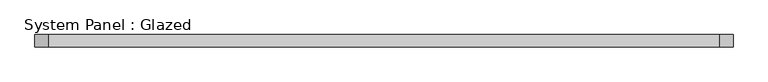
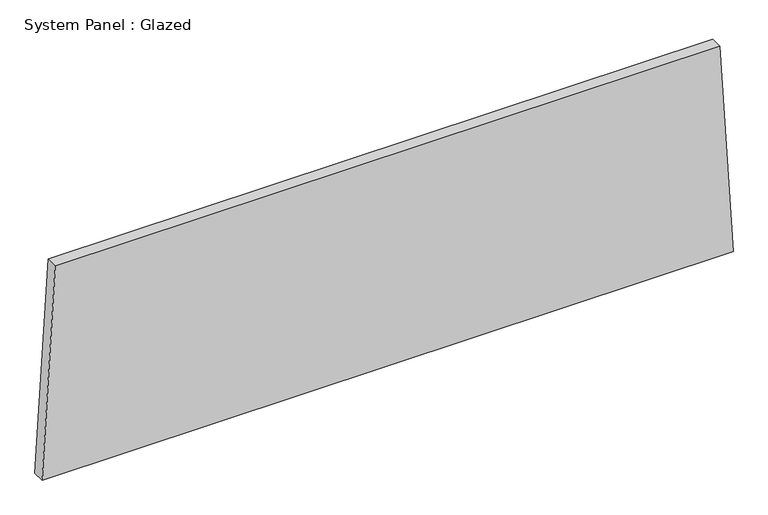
"""IFC4 building model written with IfcOpenShell, lengths in millimetres: plate geometry, System Panel : Glazed."""

import ifcopenshell
import ifcopenshell.guid

model = None  # the IFC model being written
_history = None  # IfcOwnerHistory: only IFC2X3 demands one
_inside = {}  # id of a spatial element -> (the spatial element, [elements in it])
_under = {}  # id of a project, library or spatial element -> (it, [spatial elements below it])
_declared = {}  # id of a project -> (the project, [libraries it declares])
_typed = {}  # id of a type object -> (the type object, [elements of that type])
_made_of = {}  # id of a material, layer set ... -> (it, [elements and type objects made of it])


def new_model(schema):
    """Start an empty IFC model of exactly this schema.

    Asked for "IFC4X3", IfcOpenShell would pick the latest addendum, in which some entities
    have other attributes; the version numbers below select the first issue.
    IFC2X3 requires an IfcOwnerHistory on every rooted entity: one is made here for all.
    """
    global model, _history
    if schema == "IFC4X3":
        model = ifcopenshell.file(schema_version=(4, 3, 0, 0))
    else:
        model = ifcopenshell.file(schema=schema)
    _inside.clear()
    _under.clear()
    _declared.clear()
    _typed.clear()
    _made_of.clear()
    _history = None
    if model.schema == "IFC2X3":
        org = make("IfcOrganization", Name="unknown")
        user = make(
            "IfcPersonAndOrganization",
            ThePerson=make("IfcPerson", FamilyName="unknown"),
            TheOrganization=org,
        )
        app = make(
            "IfcApplication",
            ApplicationDeveloper=org,
            Version="unknown",
            ApplicationFullName="unknown",
            ApplicationIdentifier="unknown",
        )
        _history = make(
            "IfcOwnerHistory",
            OwningUser=user,
            OwningApplication=app,
            ChangeAction="ADDED",
            CreationDate=0,
        )
    return model


def make(cls, **values):
    """One entity of the class cls with the attributes given. An attribute that is None is left unset."""
    return model.create_entity(
        cls, **{name: value for name, value in values.items() if value is not None}
    )


def rooted(cls, **values):
    """An entity with a GlobalId (a new one), such as an element, a storey or a relation."""
    return make(cls, GlobalId=ifcopenshell.guid.new(), OwnerHistory=_history, **values)


def si_unit(unit_type, name, prefix=None):
    """IfcSIUnit, for example si_unit("LENGTHUNIT", "METRE", prefix="MILLI")."""
    return make("IfcSIUnit", UnitType=unit_type, Prefix=prefix, Name=name)


def assignment(units):
    """IfcUnitAssignment: the units of a project."""
    return None if units is None else make("IfcUnitAssignment", Units=units)


def point(xyz):
    """IfcCartesianPoint."""
    return None if xyz is None else make("IfcCartesianPoint", Coordinates=xyz)


def direction(xyz):
    """IfcDirection."""
    return None if xyz is None else make("IfcDirection", DirectionRatios=xyz)


def frame(location, z_axis=None, x_axis=None):
    """IfcAxis2Placement3D, a coordinate frame: its origin and axes. An axis left out is left unset."""
    return make(
        "IfcAxis2Placement3D",
        Location=point(location),
        Axis=direction(z_axis),
        RefDirection=direction(x_axis),
    )


def origin():
    """The frame at (0, 0, 0) with its axes left unset."""
    return frame((0.0, 0.0, 0.0))


def place(relative_to, where):
    """IfcLocalPlacement: puts the frame where relative to a parent placement (None: the world)."""
    return make(
        "IfcLocalPlacement", PlacementRelTo=relative_to, RelativePlacement=where
    )


def context(
    kind, dimensions, precision=None, world=None, true_north=None, identifier=None
):
    """IfcGeometricRepresentationContext, for example the 3D "Model" context."""
    return make(
        "IfcGeometricRepresentationContext",
        ContextIdentifier=identifier,
        ContextType=kind,
        CoordinateSpaceDimension=dimensions,
        Precision=precision,
        WorldCoordinateSystem=world,
        TrueNorth=true_north,
    )


def project(units=None, contexts=None):
    """IfcProject with its units and contexts."""
    return rooted(
        "IfcProject",
        Name="project",
        RepresentationContexts=contexts,
        UnitsInContext=assignment(units),
    )


def spatial(cls, under=None, at=None, **own):
    """A site, building, storey or space (cls), placed at a placement, below another one or the project."""
    s = rooted(cls, ObjectPlacement=at, **own)
    if under is not None:
        _under.setdefault(under.id(), (under, []))[1].append(s)
    return s


def polyline(points):
    """IfcPolyline through the points."""
    return make("IfcPolyline", Points=[point(p) for p in points])


def outline(outer, holes=None, kind="AREA"):
    """IfcArbitraryClosedProfileDef: a profile drawn as a closed curve; with holes, ...WithVoids."""
    if holes is None:
        return make("IfcArbitraryClosedProfileDef", ProfileType=kind, OuterCurve=outer)
    return make(
        "IfcArbitraryProfileDefWithVoids",
        ProfileType=kind,
        OuterCurve=outer,
        InnerCurves=holes,
    )


def extrude(swept, where, along, depth):
    """IfcExtrudedAreaSolid: the profile swept, set in the frame where, extruded along a direction by depth."""
    return make(
        "IfcExtrudedAreaSolid",
        SweptArea=swept,
        Position=where,
        ExtrudedDirection=direction(along),
        Depth=depth,
    )


def shape(context_of_items, identifier, shape_type, items):
    """IfcShapeRepresentation: the items that make up one representation, for example the "Body"."""
    return make(
        "IfcShapeRepresentation",
        ContextOfItems=context_of_items,
        RepresentationIdentifier=identifier,
        RepresentationType=shape_type,
        Items=items,
    )


def source(mapping_origin, context_of_items, identifier, shape_type, items):
    """IfcRepresentationMap: a shape defined once, which mapped items show again and again."""
    return make(
        "IfcRepresentationMap",
        MappingOrigin=mapping_origin,
        MappedRepresentation=shape(context_of_items, identifier, shape_type, items),
    )


def transform(
    local_origin,
    x_axis=None,
    y_axis=None,
    z_axis=None,
    scale=None,
    scale2=None,
    scale3=None,
    uniform=True,
):
    """IfcCartesianTransformationOperator3D, or its non-uniform kind. x_axis, y_axis, z_axis: its Axis1, 2, 3."""
    if uniform:
        return make(
            "IfcCartesianTransformationOperator3D",
            Axis1=direction(x_axis),
            Axis2=direction(y_axis),
            LocalOrigin=point(local_origin),
            Scale=scale,
            Axis3=direction(z_axis),
        )
    return make(
        "IfcCartesianTransformationOperator3DnonUniform",
        Axis1=direction(x_axis),
        Axis2=direction(y_axis),
        LocalOrigin=point(local_origin),
        Scale=scale,
        Axis3=direction(z_axis),
        Scale2=scale2,
        Scale3=scale3,
    )


def mapped(mapping_source, mapping_target):
    """IfcMappedItem: shows the shape of a source again, moved by a transform."""
    return make(
        "IfcMappedItem", MappingSource=mapping_source, MappingTarget=mapping_target
    )


def made_of(thing, what):
    """Note that an element or type object is made of a material, layer set ...; save() writes the relation."""
    if what is not None:
        _made_of.setdefault(what.id(), (what, []))[1].append(thing)
    return thing


def element(
    cls,
    number,
    at=None,
    inside=None,
    cuts=None,
    type_object=None,
    material=None,
    context=None,
    identifier="Body",
    shape_type=None,
    held_by="IfcProductDefinitionShape",
    body=None,
    shapes=None,
    **own,
):
    """One element of the class cls, such as IfcWall. Its Tag is "e" and its number.

    at: its placement. inside: the storey or other place that contains it. cuts: it is an
    opening in that element (IfcRelVoidsElement). A single representation is given by context,
    identifier, shape_type and body (its items); several are given by shapes. held_by: the class
    of the entity that holds the representations. save() writes the other relations.
    """
    e = rooted(cls, Tag="e%d" % number, ObjectPlacement=at, **own)
    if body is not None:
        shapes = [shape(context, identifier, shape_type, body)]
    if shapes is not None:
        e.Representation = make(held_by, Representations=shapes)
    if inside is not None:
        _inside.setdefault(inside.id(), (inside, []))[1].append(e)
    if cuts is not None:
        rooted(
            "IfcRelVoidsElement", RelatingBuildingElement=cuts, RelatedOpeningElement=e
        )
    if type_object is not None:
        _typed.setdefault(type_object.id(), (type_object, []))[1].append(e)
    return made_of(e, material)


def aggregate(whole, parts):
    """IfcRelAggregates: a whole, such as a stair, and the parts it consists of."""
    return rooted("IfcRelAggregates", RelatingObject=whole, RelatedObjects=parts)


def save(model, path):
    """Write the relations noted so far, then the file.

    IfcRelAggregates (storeys below a building ...), IfcRelContainedInSpatialStructure (elements
    in a storey), IfcRelDefinesByType, IfcRelAssociatesMaterial and IfcRelDeclares: one each for
    every whole, place, type object, material and project.
    """
    for whole, parts in _under.values():
        aggregate(whole, parts)
    for where, things in _inside.values():
        rooted(
            "IfcRelContainedInSpatialStructure",
            RelatedElements=things,
            RelatingStructure=where,
        )
    for kind, things in _typed.values():
        rooted("IfcRelDefinesByType", RelatedObjects=things, RelatingType=kind)
    for what, things in _made_of.values():
        rooted("IfcRelAssociatesMaterial", RelatedObjects=things, RelatingMaterial=what)
    for by, libraries in _declared.values():
        rooted("IfcRelDeclares", RelatingContext=by, RelatedDefinitions=libraries)
    model.write(path)


def system_panel_glazed_5e04bf78(model_context):
    return source(origin(), model_context, "Body", "SweptSolid", [
        extrude(outline(polyline([(0.0, -713.2424026), (0.0, 713.2424026), (457.7399348, 686.1454587), (457.7399348, -686.1454587), (0.0, -713.2424026)])), frame((0.0, -44.45, 0.0), z_axis=(0.0, 1.0, 0.0), x_axis=(0.0, 0.0, 1.0)), (0.0, 0.0, 1.0), 25.4),
    ])


if __name__ == "__main__":
    model = new_model("IFC4")
    model_context = context("Model", 3, world=origin())
    ifc_project = project(units=[si_unit("LENGTHUNIT", "METRE", prefix="MILLI")], contexts=[model_context])
    site = spatial("IfcSite", under=ifc_project)
    building = spatial("IfcBuilding", under=site)
    placement = place(None, origin())
    system_panel_glazed_shape = system_panel_glazed_5e04bf78(model_context)
    element("IfcPlate", 1, ObjectType="System Panel : Glazed", at=placement, inside=building, context=model_context, shape_type="MappedRepresentation", body=[
        mapped(system_panel_glazed_shape, transform((0.0, 0.0, 0.0), x_axis=(1.0, 0.0, 0.0), y_axis=(0.0, 1.0, 0.0), z_axis=(0.0, 0.0, 1.0))),
    ])
    save(model, "model.ifc")
